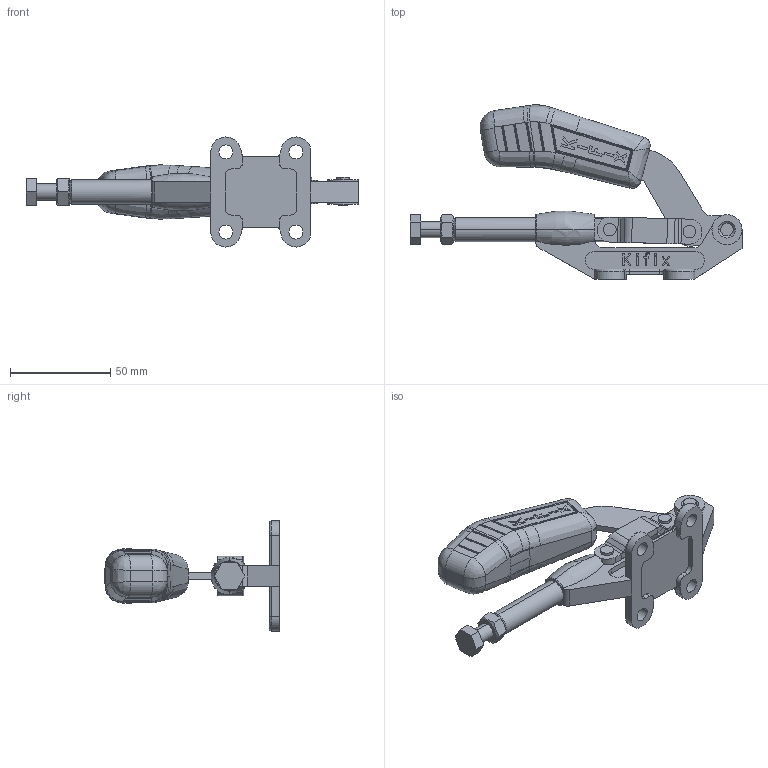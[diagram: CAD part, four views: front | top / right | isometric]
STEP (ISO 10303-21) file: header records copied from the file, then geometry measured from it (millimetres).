
FILE_DESCRIPTION (( 'STEP AP203' ), '1' );
FILE_NAME ('KF-057.STEP', '2014-08-19T12:07:02', ( 'Ricardo' ), ( '' ), 'SwSTEP 2.0', 'SolidWorks 2013', '' );
FILE_SCHEMA (( 'CONFIG_CONTROL_DESIGN' ));
Length unit declared in the file: millimetre
Products named in the file (10): 11.50002; 12.50020; PP-M8; 02.30009; KF-057; 01.10003; 03.20037; 08.10003; 07.60001; 06.50006
Assembly tree (12 placements, depth 3):
  KF-057
    02.30009
    01.10003
    03.20037
    08.10003  x2
    07.60001
    06.50006  x3
    PP-M8
      11.50002
      12.50020
Bounding box: 165.88 x 87.2 x 54.98 mm (x, y, z)
Volume: 86800.2 mm3; surface area: 40734.5 mm2
Topology: 11 solids, 11 shells, 792 faces, 2035 edges, 1292 vertices
Faces by surface type: plane 335, bspline 216, cylinder 191, cone 30, torus 20
Entity records: 30212 total; most frequent: CARTESIAN_POINT 13118, ORIENTED_EDGE 3790, DIRECTION 2575, EDGE_CURVE 1895, VERTEX_POINT 1218, LINE 881, VECTOR 881, AXIS2_PLACEMENT_3D 847
